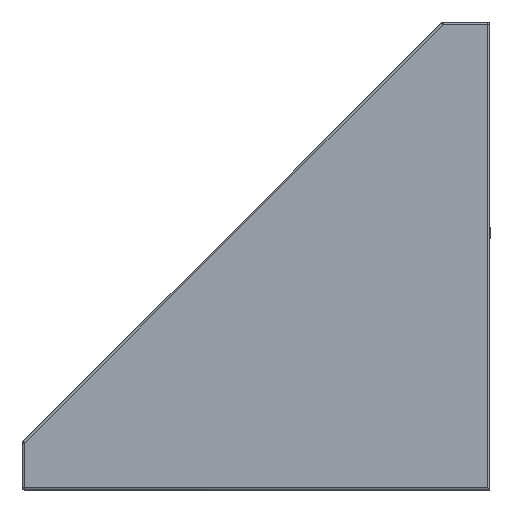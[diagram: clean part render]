
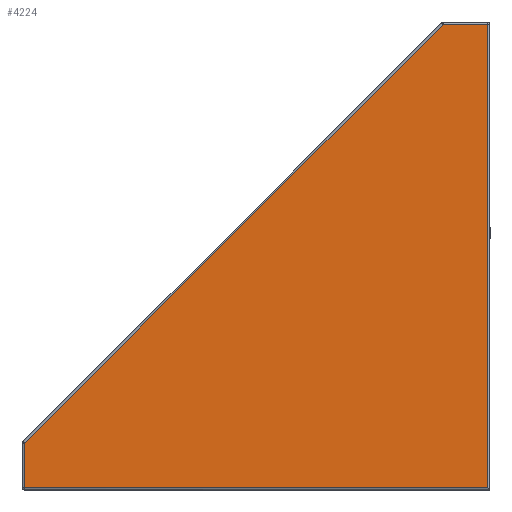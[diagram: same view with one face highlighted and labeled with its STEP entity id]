
A CAD part, left-side view. The second image highlights one B-rep face of the part: STEP entity #4224.
In plain terms, the highlighted planar face has unit normal (-1, 0, 0).
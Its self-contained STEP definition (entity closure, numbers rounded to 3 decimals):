
#122 = EDGE_CURVE ( 'NONE', #3058, #5403, #3230, .T. ) ;
#166 = PLANE ( 'NONE',  #8016 ) ;
#207 = VERTEX_POINT ( 'NONE', #3264 ) ;
#320 = CARTESIAN_POINT ( 'NONE',  ( -47.404, 34.134, 0.5 ) ) ;
#643 = EDGE_CURVE ( 'NONE', #2392, #4149, #1239, .T. ) ;
#845 = CARTESIAN_POINT ( 'NONE',  ( -47.404, 34.634, 10. ) ) ;
#877 = DIRECTION ( 'NONE',  ( 0., -1., 0. ) ) ;
#1239 = LINE ( 'NONE', #6937, #2800 ) ;
#1694 = LINE ( 'NONE', #5524, #6578 ) ;
#2392 = VERTEX_POINT ( 'NONE', #3291 ) ;
#2763 = DIRECTION ( 'NONE',  ( 0., 0., -1. ) ) ;
#2782 = CARTESIAN_POINT ( 'NONE',  ( -47.404, -53.573, 97.5 ) ) ;
#2800 = VECTOR ( 'NONE', #8271, 1000. ) ;
#2859 = DIRECTION ( 'NONE',  ( 0., 1., 0. ) ) ;
#3058 = VERTEX_POINT ( 'NONE', #8120 ) ;
#3146 = EDGE_CURVE ( 'NONE', #4149, #3058, #4011, .T. ) ;
#3199 = EDGE_CURVE ( 'NONE', #207, #2392, #8485, .T. ) ;
#3230 = LINE ( 'NONE', #7412, #4578 ) ;
#3264 = CARTESIAN_POINT ( 'NONE',  ( -47.404, -62.866, 0.5 ) ) ;
#3291 = CARTESIAN_POINT ( 'NONE',  ( -47.404, -62.866, 97.5 ) ) ;
#3526 = DIRECTION ( 'NONE',  ( 0., 0., 1. ) ) ;
#3612 = CARTESIAN_POINT ( 'NONE',  ( -47.404, 34.28, 9.646 ) ) ;
#4011 = LINE ( 'NONE', #3612, #5586 ) ;
#4149 = VERTEX_POINT ( 'NONE', #2782 ) ;
#4224 = ADVANCED_FACE ( 'NONE', ( #6911 ), #166, .F. ) ;
#4269 = DIRECTION ( 'NONE',  ( 0., 0.707, -0.707 ) ) ;
#4449 = ORIENTED_EDGE ( 'NONE', *, *, #643, .T. ) ;
#4578 = VECTOR ( 'NONE', #2763, 1000. ) ;
#4867 = CARTESIAN_POINT ( 'NONE',  ( -47.404, -62.866, 10. ) ) ;
#5352 = VECTOR ( 'NONE', #3526, 1000. ) ;
#5403 = VERTEX_POINT ( 'NONE', #320 ) ;
#5524 = CARTESIAN_POINT ( 'NONE',  ( -47.404, 34.634, 0.5 ) ) ;
#5530 = EDGE_LOOP ( 'NONE', ( #7014, #5746, #8595, #6242, #4449 ) ) ;
#5586 = VECTOR ( 'NONE', #4269, 1000. ) ;
#5746 = ORIENTED_EDGE ( 'NONE', *, *, #122, .T. ) ;
#5774 = EDGE_CURVE ( 'NONE', #5403, #207, #1694, .T. ) ;
#6242 = ORIENTED_EDGE ( 'NONE', *, *, #3199, .T. ) ;
#6578 = VECTOR ( 'NONE', #877, 1000. ) ;
#6831 = DIRECTION ( 'NONE',  ( 1., 0., 0. ) ) ;
#6911 = FACE_OUTER_BOUND ( 'NONE', #5530, .T. ) ;
#6937 = CARTESIAN_POINT ( 'NONE',  ( -47.404, 34.634, 97.5 ) ) ;
#7014 = ORIENTED_EDGE ( 'NONE', *, *, #3146, .T. ) ;
#7412 = CARTESIAN_POINT ( 'NONE',  ( -47.404, 34.134, 10. ) ) ;
#8016 = AXIS2_PLACEMENT_3D ( 'NONE', #845, #6831, #2859 ) ;
#8120 = CARTESIAN_POINT ( 'NONE',  ( -47.404, 34.134, 9.793 ) ) ;
#8271 = DIRECTION ( 'NONE',  ( 0., 1., 0. ) ) ;
#8485 = LINE ( 'NONE', #4867, #5352 ) ;
#8595 = ORIENTED_EDGE ( 'NONE', *, *, #5774, .T. ) ;
